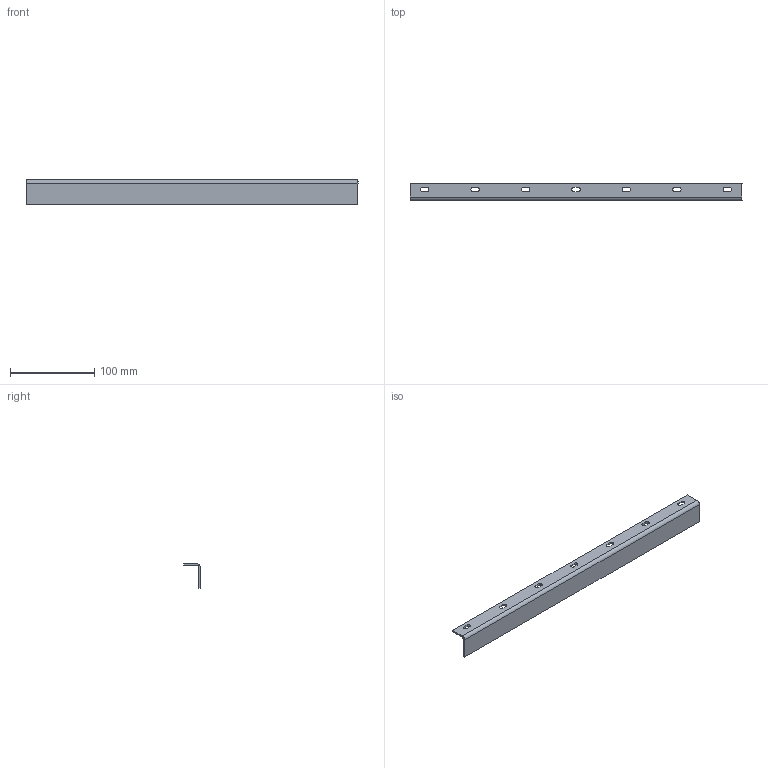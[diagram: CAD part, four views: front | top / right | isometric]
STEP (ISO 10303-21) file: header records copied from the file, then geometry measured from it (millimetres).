
FILE_DESCRIPTION (( 'STEP AP203' ), '1' );
FILE_NAME ('ORW-72.24.20.20.10.002 赶鎀鍧.STEP', '2025-10-13T13:18:55', ( '燴僽樥' ), ( '' ), 'SwSTEP 2.0', 'SolidWorks 2025', '' );
FILE_SCHEMA (( 'CONFIG_CONTROL_DESIGN' ));
Length unit declared in the file: millimetre
Products named in the file (1): ORW-72.24.20.20.10.002 Уголок
Bounding box: 395 x 20 x 29 mm (x, y, z)
Volume: 35487.9 mm3; surface area: 37610.7 mm2
Topology: 1 solids, 1 shells, 42 faces, 112 edges, 72 vertices
Faces by surface type: plane 26, cylinder 16
Entity records: 1407 total; most frequent: DIRECTION 230, CARTESIAN_POINT 227, ORIENTED_EDGE 224, EDGE_CURVE 112, VECTOR 80, LINE 80, AXIS2_PLACEMENT_3D 75, VERTEX_POINT 72
